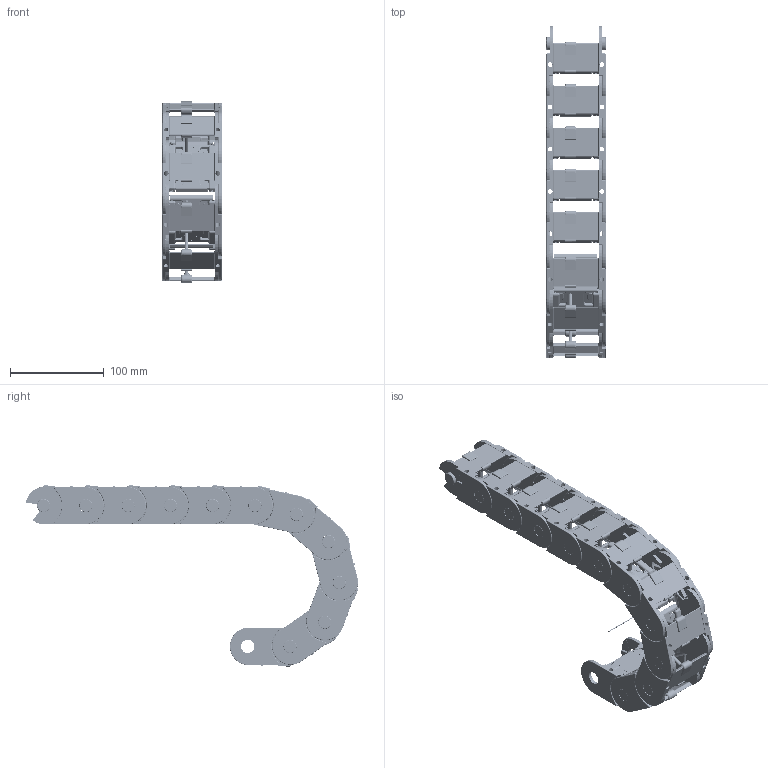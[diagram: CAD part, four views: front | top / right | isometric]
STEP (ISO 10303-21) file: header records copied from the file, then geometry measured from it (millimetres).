
FILE_DESCRIPTION((''),'2;1');
FILE_NAME('C:\Uebbing\PARAMETERKETTEN\KOLIBRI\Kol_40_062_2\Kol_40_062_2_R75.stp','2012-03-05T13:16:38',('Uebbing'),(''),'Autodesk Inventor 10','Autodesk Inventor 10','');
FILE_SCHEMA(('AUTOMOTIVE_DESIGN { 1 0 10303 214 1 1 1 1 }'));
Length unit declared in the file: millimetre
Products named in the file (6): KOLIBRI 40_062_2_PARAMETRISCH; Achse; Kol_40_062_2; Kol_40_062_2_PZ; Kol_40_062_2_Klappsteg
Assembly tree (15 placements, depth 3):
  KOLIBRI 40_062_2_PARAMETRISCH
    Achse
    Kol_40_062_2  x11
      Kol_40_062_2_PZ
      Kol_40_062_2
      Kol_40_062_2_Klappsteg
Bounding box: 63 x 353.24 x 192.97 mm (x, y, z)
Volume: 385268.2 mm3; surface area: 281529.5 mm2
Topology: 34 solids, 111 shells, 11971 faces, 31706 edges, 20496 vertices
Faces by surface type: bspline 5093, plane 4567, cylinder 1915, torus 242, sphere 110, cone 44
Full cylindrical faces by diameter (mm): 1 x1, 1.609 x11, 2.825 x11, 3.4 x44, 3.5 x22, 4 x44, 5 x11, 6 x11, 14 x11, 14.1 x11
Entity records: 38297 total; most frequent: CARTESIAN_POINT 13117, ORIENTED_EDGE 5674, DIRECTION 4289, EDGE_CURVE 2837, VERTEX_POINT 1853, VECTOR 1759, LINE 1759, AXIS2_PLACEMENT_3D 1265
